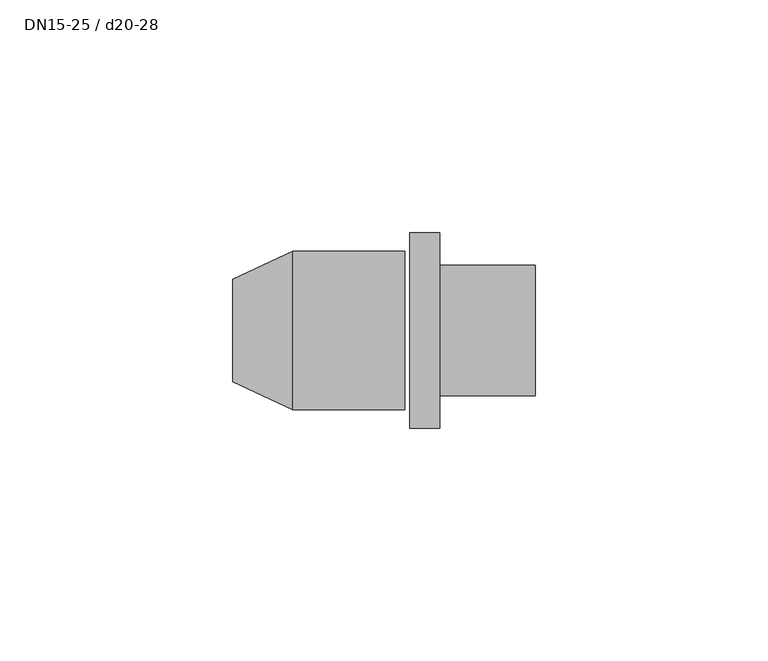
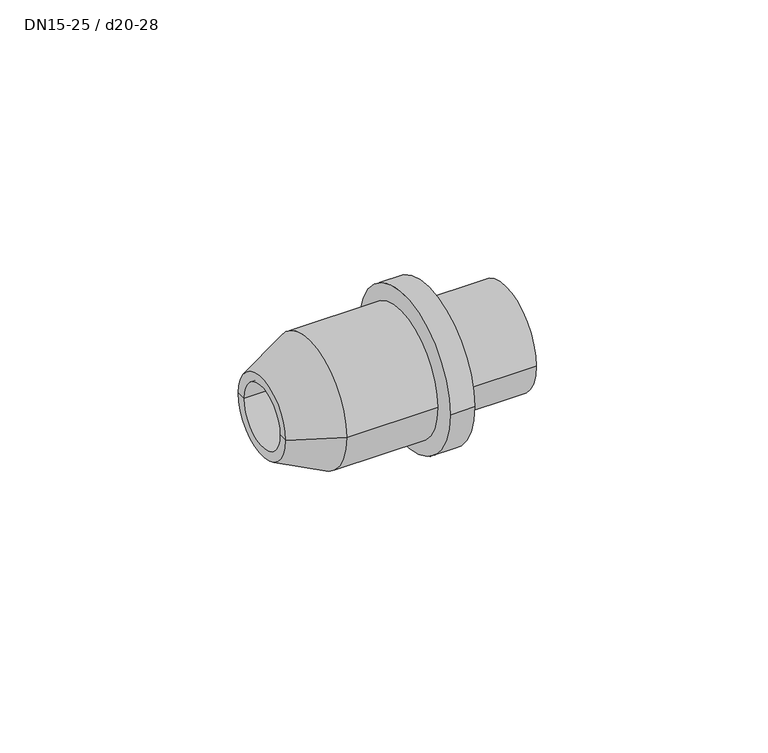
"""IFC4 building model written with IfcOpenShell, lengths in millimetres: pipe fitting geometry, NLRS_50_PIF_UN_PushFit adapter op verdeler met steekaansluiting_geb : DN15-25 / d20-28."""

from ifc_helpers import new_model, si_unit, point, frame, origin, origin_2d, place, context, project, spatial, polyline, circle_curve, trimmed, segment, composite_curve, outline, extrude, source, transform, mapped, element, save
from ifc_brep_helpers import plane_surface, cylinder_surface, revolved_surface, advanced_brep


def dn15_25_d20_28_17184077(model_context):
    return source(origin(), model_context, "Body", "SolidModel", [
        advanced_brep(
        [(2.0, -17.0, 0.0), (2.0, 17.0, 0.0), (2.0, 0.0, 0.0), (-22.1329585, -17.0, 0.0), (-22.1329585, 17.0, 0.0), (-35.0, -11.0, 0.0), (-35.0, 11.0, 0.0), (-35.0, -8.5, 0.0), (-35.0, 8.5, 0.0), (-9.5, -8.5, 0.0), (-9.5, 8.5, 0.0), (-9.5, 0.0, 0.0)],
        [
            (0, 1, circle_curve(frame((2.0, 0.0, 0.0), z_axis=(1.0, 0.0, 0.0), x_axis=(0.0, 1.0, 0.0)), 17.0)),
            (1, 2),
            (2, 0),
            (1, 0, circle_curve(frame((2.0, 0.0, 0.0), z_axis=(1.0, 0.0, 0.0), x_axis=(0.0, 1.0, 0.0)), 17.0)),
            (3, 4, circle_curve(frame((-22.1329585, 0.0, 0.0), z_axis=(1.0, 0.0, 0.0), x_axis=(0.0, 1.0, 0.0)), 17.0)),
            (4, 1),
            (0, 3),
            (4, 3, circle_curve(frame((-22.1329585, 0.0, 0.0), z_axis=(1.0, 0.0, 0.0), x_axis=(0.0, 1.0, 0.0)), 17.0)),
            (5, 6, circle_curve(frame((-35.0, 0.0, 0.0), z_axis=(1.0, 0.0, 0.0), x_axis=(0.0, 1.0, 0.0)), 11.0)),
            (6, 4),
            (3, 5),
            (6, 5, circle_curve(frame((-35.0, 0.0, 0.0), z_axis=(1.0, 0.0, 0.0), x_axis=(0.0, 1.0, 0.0)), 11.0)),
            (7, 8, circle_curve(frame((-35.0, 0.0, 0.0), z_axis=(1.0, 0.0, 0.0), x_axis=(0.0, 1.0, 0.0)), 8.5)),
            (8, 6),
            (5, 7),
            (8, 7, circle_curve(frame((-35.0, 0.0, 0.0), z_axis=(1.0, 0.0, 0.0), x_axis=(0.0, 1.0, 0.0)), 8.5)),
            (9, 10, circle_curve(frame((-9.5, 0.0, 0.0), z_axis=(1.0, 0.0, 0.0), x_axis=(0.0, 1.0, 0.0)), 8.5)),
            (10, 8),
            (7, 9),
            (10, 9, circle_curve(frame((-9.5, 0.0, 0.0), z_axis=(1.0, 0.0, 0.0), x_axis=(0.0, 1.0, 0.0)), 8.5)),
            (11, 10),
            (9, 11),
        ],
        [
            plane_surface(frame((2.0, 0.0, 0.0), z_axis=(1.0, 0.0, 0.0), x_axis=(0.0, 1.0, 0.0))),
            cylinder_surface(frame((-45.0, 0.0, 0.0), z_axis=(-1.0, 0.0, 0.0), x_axis=(0.0, 1.0, 0.0)), 17.0),
            revolved_surface(polyline([(-22.1329585, 17.0, 0.0), (-35.0, 11.0, 0.0)]), (-45.0, 0.0, 0.0), (-1.0, 0.0, 0.0)),
            plane_surface(frame((-35.0, 0.0, 0.0), z_axis=(-1.0, 0.0, 0.0), x_axis=(0.0, 1.0, 0.0))),
            revolved_surface(polyline([(-35.0, 8.5, 0.0), (-9.5, 8.5, 0.0)]), (-45.0, 0.0, 0.0), (-1.0, 0.0, 0.0)),
            plane_surface(frame((-9.5, 0.0, 0.0), z_axis=(-1.0, 0.0, 0.0), x_axis=(0.0, 1.0, 0.0))),
        ],
        [
            (0, [[1, 2, 3]]),
            (0, [[4, -3, -2]]),
            (1, [[5, 6, -1, 7]]),
            (1, [[8, -7, -4, -6]]),
            (2, [[9, 10, -5, 11]]),
            (2, [[12, -11, -8, -10]]),
            (3, [[13, 14, -9, 15]]),
            (3, [[16, -15, -12, -14]]),
            (4, [[17, 18, -13, 19]]),
            (4, [[20, -19, -16, -18]]),
            (5, [[21, -17, 22]]),
            (5, [[-22, -20, -21]]),
        ],
    ),
        extrude(outline(composite_curve([segment(trimmed(circle_curve(origin_2d(), 14.0), [point((-14.0, 0.0))], [point((14.0, 0.0))], False, "CARTESIAN"), True, "CONTINUOUS"), segment(trimmed(circle_curve(origin_2d(), 14.0), [point((14.0, 0.0))], [point((-14.0, 0.0))], False, "CARTESIAN"), True, "CONTINUOUS")], self_intersect=False), holes=[composite_curve([segment(trimmed(circle_curve(origin_2d(), 11.5), [point((11.5, 0.0))], [point((-11.5, 0.0))], True, "CARTESIAN"), True, "CONTINUOUS"), segment(trimmed(circle_curve(origin_2d(), 11.5), [point((-11.5, 0.0))], [point((11.5, 0.0))], True, "CARTESIAN"), True, "CONTINUOUS")], self_intersect=False)]), frame((9.5, 0.0, 0.0), z_axis=(1.0, 0.0, 0.0), x_axis=(0.0, 1.0, 0.0)), (0.0, 0.0, 1.0), 20.5),
        extrude(outline(composite_curve([segment(trimmed(circle_curve(origin_2d(), 21.0), [point((-21.0, 0.0))], [point((21.0, 0.0))], False, "CARTESIAN"), True, "CONTINUOUS"), segment(trimmed(circle_curve(origin_2d(), 21.0), [point((21.0, 0.0))], [point((-21.0, 0.0))], False, "CARTESIAN"), True, "CONTINUOUS")], self_intersect=False)), frame((3.0, 0.0, 0.0), z_axis=(1.0, 0.0, 0.0), x_axis=(0.0, 1.0, 0.0)), (0.0, 0.0, 1.0), 6.5),
    ])


if __name__ == "__main__":
    model = new_model("IFC4")
    model_context = context("Model", 3, world=origin())
    ifc_project = project(units=[si_unit("LENGTHUNIT", "METRE", prefix="MILLI")], contexts=[model_context])
    site = spatial("IfcSite", under=ifc_project)
    building = spatial("IfcBuilding", under=site)
    placement = place(None, origin())
    dn15_25_d20_28_shape = dn15_25_d20_28_17184077(model_context)
    element("IfcPipeFitting", 1, ObjectType="NLRS_50_PIF_UN_PushFit adapter op verdeler met steekaansluiting_geb : DN15-25 / d20-28", at=placement, inside=building, context=model_context, shape_type="MappedRepresentation", body=[
        mapped(dn15_25_d20_28_shape, transform((0.0, 0.0, 0.0), x_axis=(1.0, 0.0, 0.0), y_axis=(0.0, 1.0, 0.0), z_axis=(0.0, 0.0, 1.0))),
    ])
    save(model, "model.ifc")
